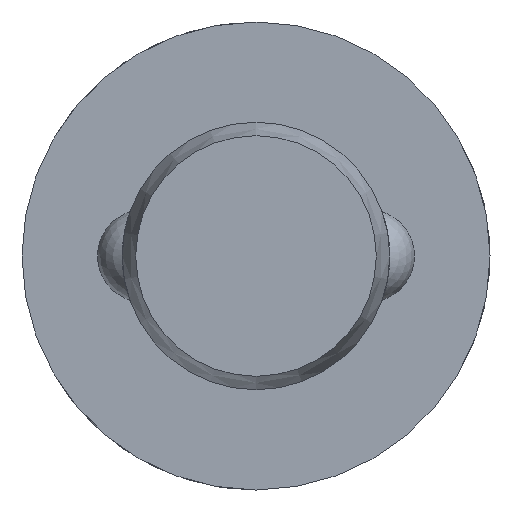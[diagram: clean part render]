
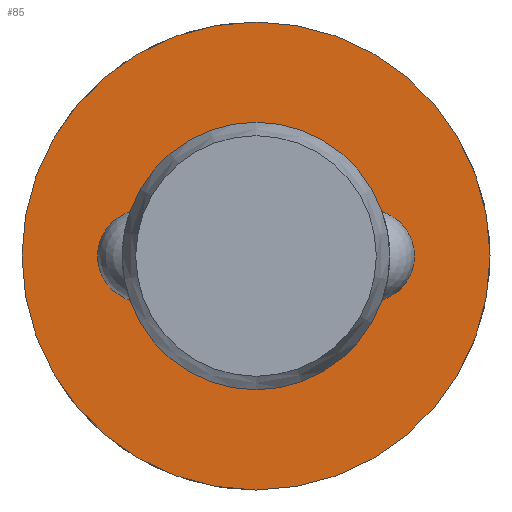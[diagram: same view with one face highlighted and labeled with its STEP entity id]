
A CAD part, left-side view. The second image highlights one B-rep face of the part: STEP entity #85.
In plain terms, the highlighted planar face has unit normal (-1, 0, 0).
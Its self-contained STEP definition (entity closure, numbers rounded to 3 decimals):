
#85 = ADVANCED_FACE( '', ( #130, #131 ), #132, .F. );
#130 = FACE_OUTER_BOUND( '', #200, .T. );
#131 = FACE_BOUND( '', #201, .T. );
#132 = PLANE( '', #202 );
#200 = EDGE_LOOP( '', ( #315 ) );
#201 = EDGE_LOOP( '', ( #316 ) );
#202 = AXIS2_PLACEMENT_3D( '', #317, #318, #319 );
#315 = ORIENTED_EDGE( '', *, *, #458, .F. );
#316 = ORIENTED_EDGE( '', *, *, #455, .T. );
#317 = CARTESIAN_POINT( '', ( 18.2, 4., 0. ) );
#318 = DIRECTION( '', ( 1., 0., 0. ) );
#319 = DIRECTION( '', ( 0., 0., -1. ) );
#455 = EDGE_CURVE( '', #528, #528, #529, .T. );
#458 = EDGE_CURVE( '', #534, #534, #535, .T. );
#528 = VERTEX_POINT( '', #732 );
#529 = CIRCLE( '', #733, 4. );
#534 = VERTEX_POINT( '', #820 );
#535 = CIRCLE( '', #821, 7. );
#732 = CARTESIAN_POINT( '', ( 18.2, 0., -4. ) );
#733 = AXIS2_PLACEMENT_3D( '', #898, #899, #900 );
#820 = CARTESIAN_POINT( '', ( 18.2, 0., -7. ) );
#821 = AXIS2_PLACEMENT_3D( '', #901, #902, #903 );
#898 = CARTESIAN_POINT( '', ( 18.2, 0., 0. ) );
#899 = DIRECTION( '', ( 1., 0., 0. ) );
#900 = DIRECTION( '', ( 0., 0., -1. ) );
#901 = CARTESIAN_POINT( '', ( 18.2, 0., 0. ) );
#902 = DIRECTION( '', ( 1., 0., 0. ) );
#903 = DIRECTION( '', ( 0., 0., -1. ) );
